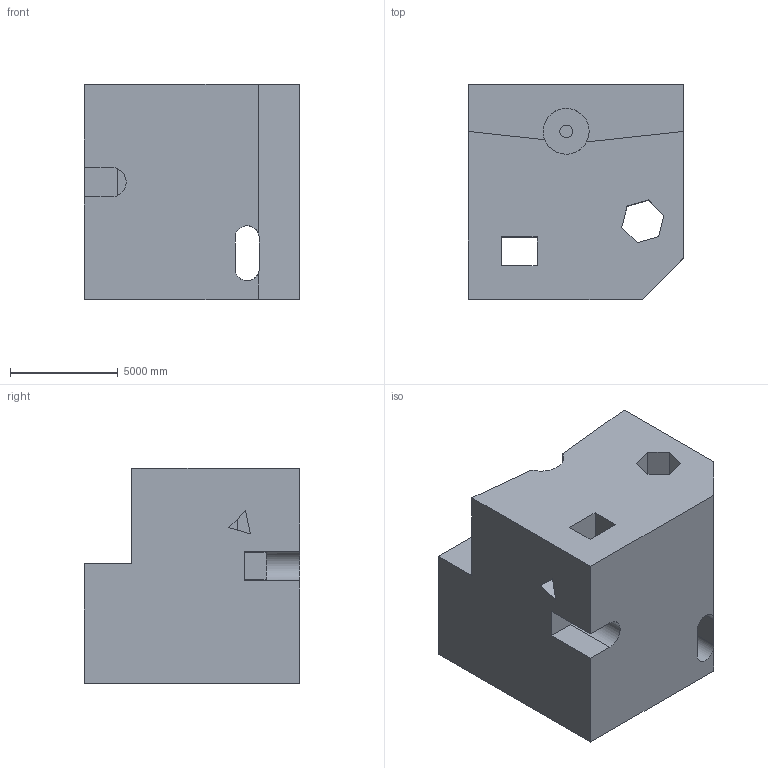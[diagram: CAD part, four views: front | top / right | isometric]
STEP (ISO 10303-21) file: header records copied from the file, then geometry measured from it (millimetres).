
FILE_DESCRIPTION (( 'STEP AP203' ), '1' );
FILE_NAME ('1815.STEP', '2022-08-26T14:45:07', ( 'user' ), ( '' ), 'SwSTEP 2.0', 'SolidWorks 2021', '' );
FILE_SCHEMA (( 'CONFIG_CONTROL_DESIGN' ));
Length unit declared in the file: centimetre
Products named in the file (1): 1815
Bounding box: 10000 x 10000 x 10000 mm (x, y, z)
Volume: 748139801497.4 mm3; surface area: 788147747.9 mm2
Topology: 1 solids, 1 shells, 47 faces, 153 edges, 102 vertices
Faces by surface type: plane 38, cylinder 9
Entity records: 1768 total; most frequent: CARTESIAN_POINT 339, ORIENTED_EDGE 306, DIRECTION 257, EDGE_CURVE 153, VECTOR 121, LINE 121, VERTEX_POINT 102, AXIS2_PLACEMENT_3D 68
